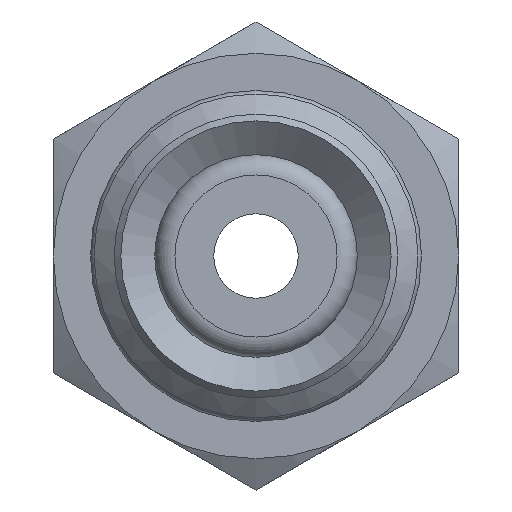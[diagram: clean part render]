
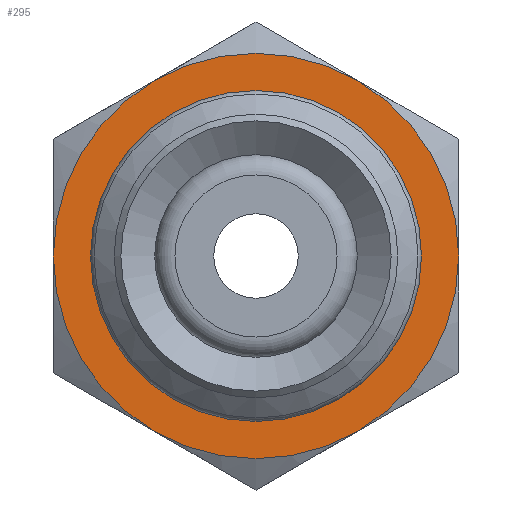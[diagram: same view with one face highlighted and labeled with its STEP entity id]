
A CAD part, front view. The second image highlights one B-rep face of the part: STEP entity #295.
In plain terms, the highlighted planar face has unit normal (0, -1, 0) as drawn and (-1, 0, 0) by its records, which use the part's own axes.
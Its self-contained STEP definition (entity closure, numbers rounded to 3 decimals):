
#295=ADVANCED_FACE('',(#373,#374),#375,.F.);
#373=FACE_BOUND('',#536,.T.);
#374=FACE_OUTER_BOUND('',#537,.T.);
#375=PLANE('',#538);
#536=EDGE_LOOP('',(#756));
#537=EDGE_LOOP('',(#757,#758,#759,#760,#761,#762));
#538=AXIS2_PLACEMENT_3D('',#763,#764,#765);
#756=ORIENTED_EDGE('',*,*,#1050,.T.);
#757=ORIENTED_EDGE('',*,*,#1045,.F.);
#758=ORIENTED_EDGE('',*,*,#1047,.F.);
#759=ORIENTED_EDGE('',*,*,#1051,.F.);
#760=ORIENTED_EDGE('',*,*,#1014,.F.);
#761=ORIENTED_EDGE('',*,*,#1024,.F.);
#762=ORIENTED_EDGE('',*,*,#1042,.F.);
#763=CARTESIAN_POINT('',(0.,0.0,0.0));
#764=DIRECTION('',(1.0,0.0,0.0));
#765=DIRECTION('',(0.0,1.0,0.0));
#1014=EDGE_CURVE('',#1097,#1098,#1099,.T.);
#1024=EDGE_CURVE('',#1112,#1097,#1116,.T.);
#1042=EDGE_CURVE('',#1145,#1112,#1146,.T.);
#1045=EDGE_CURVE('',#1149,#1145,#1151,.T.);
#1047=EDGE_CURVE('',#1153,#1149,#1154,.T.);
#1050=EDGE_CURVE('',#1158,#1158,#1159,.T.);
#1051=EDGE_CURVE('',#1098,#1153,#1160,.T.);
#1097=VERTEX_POINT('',#1245);
#1098=VERTEX_POINT('',#1246);
#1099=CIRCLE('',#1247,6.0);
#1112=VERTEX_POINT('',#1302);
#1116=CIRCLE('',#1336,6.0);
#1145=VERTEX_POINT('',#1446);
#1146=CIRCLE('',#1447,6.0);
#1149=VERTEX_POINT('',#1460);
#1151=CIRCLE('',#1472,6.0);
#1153=VERTEX_POINT('',#1484);
#1154=CIRCLE('',#1485,6.0);
#1158=VERTEX_POINT('',#1509);
#1159=CIRCLE('',#1510,4.5);
#1160=CIRCLE('',#1511,6.0);
#1245=CARTESIAN_POINT('',(0.,-5.196,3.0));
#1246=CARTESIAN_POINT('',(0.,-5.196,-3.0));
#1247=AXIS2_PLACEMENT_3D('',#1639,#1640,#1641);
#1302=CARTESIAN_POINT('',(0.,0.0,6.0));
#1336=AXIS2_PLACEMENT_3D('',#1644,#1645,#1646);
#1446=CARTESIAN_POINT('',(0.,5.196,3.0));
#1447=AXIS2_PLACEMENT_3D('',#1672,#1673,#1674);
#1460=CARTESIAN_POINT('',(0.,5.196,-3.0));
#1472=AXIS2_PLACEMENT_3D('',#1675,#1676,#1677);
#1484=CARTESIAN_POINT('',(0.,0.0,-6.0));
#1485=AXIS2_PLACEMENT_3D('',#1678,#1679,#1680);
#1509=CARTESIAN_POINT('',(0.,0.0,-4.5));
#1510=AXIS2_PLACEMENT_3D('',#1681,#1682,#1683);
#1511=AXIS2_PLACEMENT_3D('',#1684,#1685,#1686);
#1639=CARTESIAN_POINT('',(0.,0.0,0.0));
#1640=DIRECTION('',(1.0,0.0,0.0));
#1641=DIRECTION('',(0.0,0.0,-1.0));
#1644=CARTESIAN_POINT('',(0.,0.0,0.0));
#1645=DIRECTION('',(1.0,0.0,0.0));
#1646=DIRECTION('',(0.0,0.0,-1.0));
#1672=CARTESIAN_POINT('',(0.,0.0,0.0));
#1673=DIRECTION('',(1.0,0.0,0.0));
#1674=DIRECTION('',(0.0,0.0,-1.0));
#1675=CARTESIAN_POINT('',(0.,0.0,0.0));
#1676=DIRECTION('',(1.0,0.0,0.0));
#1677=DIRECTION('',(0.0,0.0,-1.0));
#1678=CARTESIAN_POINT('',(0.,0.0,0.0));
#1679=DIRECTION('',(1.0,0.0,0.0));
#1680=DIRECTION('',(0.0,0.0,-1.0));
#1681=CARTESIAN_POINT('',(0.,0.0,0.0));
#1682=DIRECTION('',(1.0,0.0,0.0));
#1683=DIRECTION('',(0.0,0.0,-1.0));
#1684=CARTESIAN_POINT('',(0.,0.0,0.0));
#1685=DIRECTION('',(1.0,0.0,0.0));
#1686=DIRECTION('',(0.0,0.0,-1.0));
